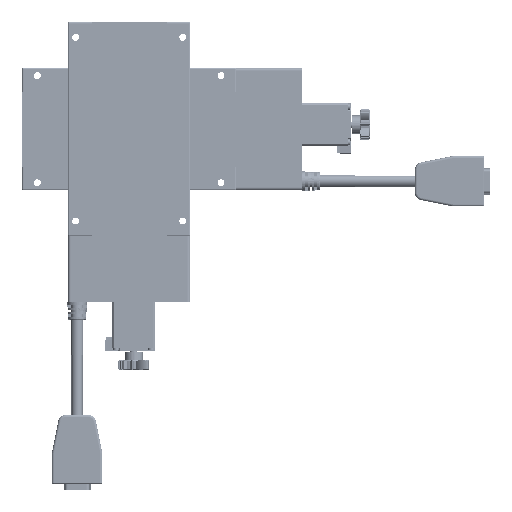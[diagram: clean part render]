
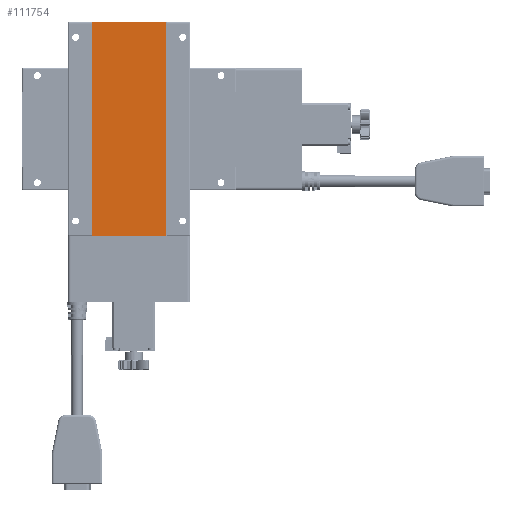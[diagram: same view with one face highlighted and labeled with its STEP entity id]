
A CAD part, front view. The second image highlights one B-rep face of the part: STEP entity #111754.
In plain terms, the highlighted planar face has unit normal (0, -1, 0).
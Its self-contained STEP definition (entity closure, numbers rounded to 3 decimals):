
#6592 = DIRECTION ( 'NONE',  ( 0., 0., -1. ) ) ;
#12101 = VERTEX_POINT ( 'NONE', #69390 ) ;
#16568 = DIRECTION ( 'NONE',  ( 0., 0., 1. ) ) ;
#26460 = CARTESIAN_POINT ( 'NONE',  ( -24.3, 0.3, -0.2 ) ) ;
#34614 = DIRECTION ( 'NONE',  ( 1., 0., 0. ) ) ;
#48457 = ORIENTED_EDGE ( 'NONE', *, *, #122245, .T. ) ;
#49506 = CARTESIAN_POINT ( 'NONE',  ( -24.3, 0.3, -139.8 ) ) ;
#55937 = CARTESIAN_POINT ( 'NONE',  ( 24.3, 0.3, -139.8 ) ) ;
#58004 = EDGE_LOOP ( 'NONE', ( #185886, #106138, #137834, #48457 ) ) ;
#58660 = FACE_OUTER_BOUND ( 'NONE', #58004, .T. ) ;
#59093 = CARTESIAN_POINT ( 'NONE',  ( 24.3, 0.3, -0.2 ) ) ;
#60070 = EDGE_CURVE ( 'NONE', #101738, #242339, #223486, .T. ) ;
#68468 = DIRECTION ( 'NONE',  ( -1., 0., 0. ) ) ;
#69390 = CARTESIAN_POINT ( 'NONE',  ( 24.3, 0.3, -139.8 ) ) ;
#72650 = CARTESIAN_POINT ( 'NONE',  ( -24.3, 0.3, -0.2 ) ) ;
#89087 = EDGE_CURVE ( 'NONE', #207955, #101738, #257034, .T. ) ;
#98696 = VECTOR ( 'NONE', #6592, 1000. ) ;
#101686 = LINE ( 'NONE', #59093, #112325 ) ;
#101738 = VERTEX_POINT ( 'NONE', #72650 ) ;
#106138 = ORIENTED_EDGE ( 'NONE', *, *, #89087, .T. ) ;
#111754 = ADVANCED_FACE ( 'NONE', ( #58660 ), #251472, .F. ) ;
#112325 = VECTOR ( 'NONE', #16568, 1000. ) ;
#112431 = CARTESIAN_POINT ( 'NONE',  ( 24.3, 0.3, -0.2 ) ) ;
#122245 = EDGE_CURVE ( 'NONE', #242339, #12101, #210441, .T. ) ;
#137834 = ORIENTED_EDGE ( 'NONE', *, *, #60070, .T. ) ;
#154756 = EDGE_CURVE ( 'NONE', #12101, #207955, #101686, .T. ) ;
#172991 = VECTOR ( 'NONE', #248753, 1000. ) ;
#185886 = ORIENTED_EDGE ( 'NONE', *, *, #154756, .T. ) ;
#193752 = VECTOR ( 'NONE', #68468, 1000. ) ;
#206200 = CARTESIAN_POINT ( 'NONE',  ( 24.3, 0.3, -139.8 ) ) ;
#207955 = VERTEX_POINT ( 'NONE', #213771 ) ;
#210441 = LINE ( 'NONE', #55937, #172991 ) ;
#213771 = CARTESIAN_POINT ( 'NONE',  ( 24.3, 0.3, -0.2 ) ) ;
#223486 = LINE ( 'NONE', #26460, #98696 ) ;
#231611 = DIRECTION ( 'NONE',  ( 0., 1., 0. ) ) ;
#242339 = VERTEX_POINT ( 'NONE', #49506 ) ;
#248753 = DIRECTION ( 'NONE',  ( 1., 0., 0. ) ) ;
#251472 = PLANE ( 'NONE',  #276272 ) ;
#257034 = LINE ( 'NONE', #112431, #193752 ) ;
#276272 = AXIS2_PLACEMENT_3D ( 'NONE', #206200, #231611, #34614 ) ;
